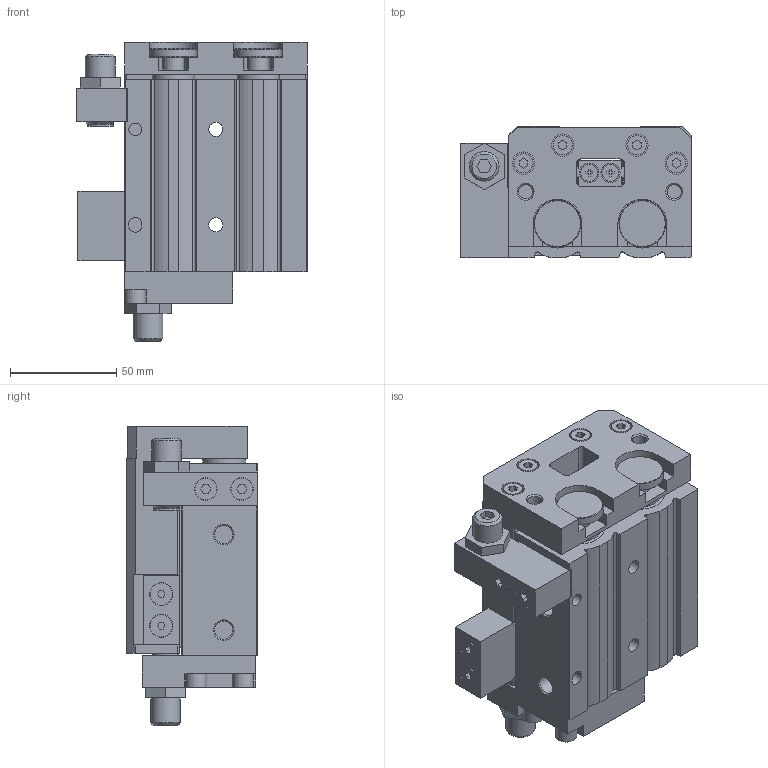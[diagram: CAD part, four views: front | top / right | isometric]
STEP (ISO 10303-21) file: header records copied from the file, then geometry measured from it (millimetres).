
FILE_DESCRIPTION( ( 'STEP AP214' ), '1' );
FILE_NAME( 'C:/Users/EMC02301/Desktop/ELS图纸/ELS25X30-S-A.stp', '2026-08-05T06:25:18', ( 'License CC BY-ND 4.0' ), ( 'CADENAS' ), ' ', 'PARTsolutions', ' ' );
FILE_SCHEMA( ( 'AUTOMOTIVE_DESIGN { 1 0 10303 214 1 1 1 1 }' ) );
Length unit declared in the file: millimetre
Products named in the file (6): ELS25X30-S-A(0)(); _ELS25X30-S-A(HX-07)(HX-07-1)(0-body); _ELS25X30-S-A(0-rod); _FJ-ELS25-A; _FJ-ELS25-A-(AS); _FJ-ELS25-(AF)
Assembly tree (5 placements, depth 2):
  ELS25X30-S-A(0)()
    _ELS25X30-S-A(HX-07)(HX-07-1)(0-body)
    _ELS25X30-S-A(0-rod)
    _FJ-ELS25-A
    _FJ-ELS25-A-(AS)
    _FJ-ELS25-(AF)
Bounding box: 108.5 x 62 x 141 mm (x, y, z)
Volume: 542923.6 mm3; surface area: 129171.9 mm2
Topology: 5 solids, 5 shells, 615 faces, 1494 edges, 987 vertices
Faces by surface type: plane 460, cylinder 124, cone 31
Full cylindrical faces by diameter (mm): 4.917 x10, 6 x2, 6.647 x8, 6.8 x2, 8 x8, 8.566 x2, 9 x12, 10 x8, 10.267 x2, 10.5 x7, 10.667 x2, 10.9 x2, 12 x7, 12.4 x1, 14 x2, 20 x2, 22 x2, 23 x2, 25 x4, 26 x2
Entity records: 22203 total; most frequent: CARTESIAN_POINT 2954, DIRECTION 2885, ORIENTED_EDGE 2722, EDGE_CURVE 1361, LINE 1079, VECTOR 1079, VERTEX_POINT 972, AXIS2_PLACEMENT_3D 903
